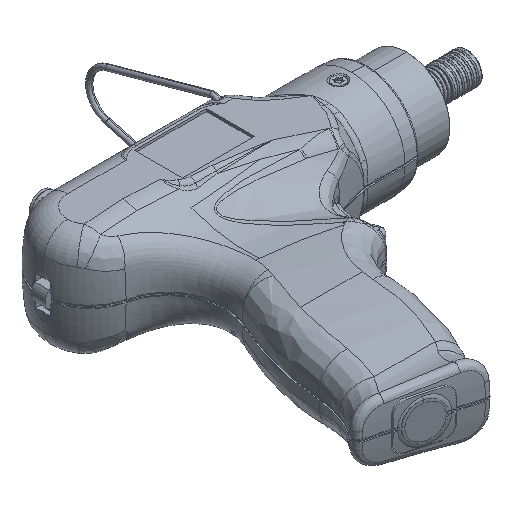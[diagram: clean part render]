
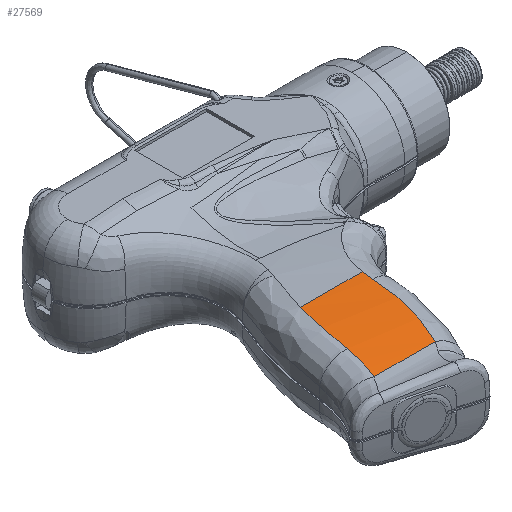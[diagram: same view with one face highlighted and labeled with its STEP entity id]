
A CAD part, isometric view. The second image highlights one B-rep face of the part: STEP entity #27569.
In plain terms, the highlighted cylindrical face has radius 275.277 mm (diameter 550.554 mm), a partial arc.
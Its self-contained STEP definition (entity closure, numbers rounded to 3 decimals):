
#1905 = CARTESIAN_POINT ( 'NONE',  ( -37.594, -58.795, 24.553 ) ) ;
#2505 = B_SPLINE_CURVE_WITH_KNOTS ( 'NONE', 3,
 ( #5017, #180126, #160142, #140186 ),
 .UNSPECIFIED., .F., .F.,
 ( 4, 4 ),
 ( 0., 0.152 ),
 .UNSPECIFIED. ) ;
#4031 = CARTESIAN_POINT ( 'NONE',  ( -7.306, -41.382, 26.105 ) ) ;
#5017 = CARTESIAN_POINT ( 'NONE',  ( -6.525, -30.34, 26.518 ) ) ;
#5624 = CARTESIAN_POINT ( 'NONE',  ( -33.478, -32.349, 26.478 ) ) ;
#8753 = CARTESIAN_POINT ( 'NONE',  ( -10.691, -56.138, 24.854 ) ) ;
#14770 = DIRECTION ( 'NONE',  ( -1., 0., 0. ) ) ;
#19316 = CARTESIAN_POINT ( 'NONE',  ( -6.681, -34.992, 26.398 ) ) ;
#20913 = CARTESIAN_POINT ( 'NONE',  ( -35.995, -49.289, 25.533 ) ) ;
#21389 = EDGE_CURVE ( 'NONE', #35090, #77837, #164801, .T. ) ;
#21938 = CARTESIAN_POINT ( 'NONE',  ( -37.044, -56.307, 24.835 ) ) ;
#24007 = CARTESIAN_POINT ( 'NONE',  ( -7.662, -43.837, 25.957 ) ) ;
#25565 = CARTESIAN_POINT ( 'NONE',  ( -32.821, -29.415, 26.54 ) ) ;
#27569 = ADVANCED_FACE ( 'NONE', ( #40245 ), #45253, .T. ) ;
#28671 = CARTESIAN_POINT ( 'NONE',  ( -10.912, -56.808, 24.778 ) ) ;
#31950 = LINE ( 'NONE', #187231, #155514 ) ;
#34759 = CARTESIAN_POINT ( 'NONE',  ( -5.935, -25.531, 26.56 ) ) ;
#35090 = VERTEX_POINT ( 'NONE', #122887 ) ;
#36643 = EDGE_CURVE ( 'NONE', #77837, #173063, #2505, .T. ) ;
#38731 = VERTEX_POINT ( 'NONE', #111104 ) ;
#39291 = CARTESIAN_POINT ( 'NONE',  ( -6.704, -35.349, 26.385 ) ) ;
#40245 = FACE_OUTER_BOUND ( 'NONE', #122597, .T. ) ;
#40851 = CARTESIAN_POINT ( 'NONE',  ( -35.663, -45.266, 25.882 ) ) ;
#41847 = CARTESIAN_POINT ( 'NONE',  ( -37.012, -56.158, 24.851 ) ) ;
#43955 = CARTESIAN_POINT ( 'NONE',  ( -8.046, -45.926, 25.807 ) ) ;
#45026 = CARTESIAN_POINT ( 'NONE',  ( -39.103, -63.376, 23.946 ) ) ;
#45253 = CYLINDRICAL_SURFACE ( 'NONE', #149756, 275.277 ) ;
#45539 = CARTESIAN_POINT ( 'NONE',  ( -32.337, -27.468, 26.56 ) ) ;
#48673 = CARTESIAN_POINT ( 'NONE',  ( -11.25, -57.81, 24.663 ) ) ;
#54759 = LINE ( 'NONE', #34759, #135494 ) ;
#56104 = VERTEX_POINT ( 'NONE', #45026 ) ;
#58230 = ORIENTED_EDGE ( 'NONE', *, *, #153483, .T. ) ;
#59233 = CARTESIAN_POINT ( 'NONE',  ( -6.739, -35.883, 26.366 ) ) ;
#60814 = CARTESIAN_POINT ( 'NONE',  ( -35.145, -41.257, 26.14 ) ) ;
#61845 = CARTESIAN_POINT ( 'NONE',  ( -36.949, -55.862, 24.884 ) ) ;
#62802 = ORIENTED_EDGE ( 'NONE', *, *, #36643, .T. ) ;
#63951 = CARTESIAN_POINT ( 'NONE',  ( -8.409, -47.659, 25.67 ) ) ;
#66477 = DIRECTION ( 'NONE',  ( 0., 0., 1. ) ) ;
#68687 = CARTESIAN_POINT ( 'NONE',  ( -11.607, -58.804, 24.543 ) ) ;
#77837 = VERTEX_POINT ( 'NONE', #180822 ) ;
#79167 = CARTESIAN_POINT ( 'NONE',  ( -6.833, -37.132, 26.317 ) ) ;
#80034 = ORIENTED_EDGE ( 'NONE', *, *, #102518, .T. ) ;
#80778 = CARTESIAN_POINT ( 'NONE',  ( -34.418, -37.143, 26.315 ) ) ;
#81787 = CARTESIAN_POINT ( 'NONE',  ( -36.857, -55.418, 24.933 ) ) ;
#83317 = ORIENTED_EDGE ( 'NONE', *, *, #129265, .T. ) ;
#83884 = CARTESIAN_POINT ( 'NONE',  ( -8.483, -48.001, 25.642 ) ) ;
#86373 = DIRECTION ( 'NONE',  ( -1., 0., 0. ) ) ;
#88567 = CARTESIAN_POINT ( 'NONE',  ( -12.346, -60.781, 24.297 ) ) ;
#88692 = CARTESIAN_POINT ( 'NONE',  ( -6.133, -25.531, 26.56 ) ) ;
#89919 = VERTEX_POINT ( 'NONE', #105324 ) ;
#92483 = EDGE_CURVE ( 'NONE', #173063, #38731, #54759, .T. ) ;
#99151 = CARTESIAN_POINT ( 'NONE',  ( -6.934, -38.202, 26.269 ) ) ;
#100696 = CARTESIAN_POINT ( 'NONE',  ( -34.396, -37.02, 26.32 ) ) ;
#101689 = CARTESIAN_POINT ( 'NONE',  ( -36.655, -54.379, 25.046 ) ) ;
#102518 = EDGE_CURVE ( 'NONE', #56104, #35090, #31950, .T. ) ;
#103802 = CARTESIAN_POINT ( 'NONE',  ( -8.636, -48.689, 25.585 ) ) ;
#105324 = CARTESIAN_POINT ( 'NONE',  ( -35.995, -49.289, 25.533 ) ) ;
#106302 = CARTESIAN_POINT ( 'NONE',  ( -5.935, -25.531, -248.717 ) ) ;
#108550 = CARTESIAN_POINT ( 'NONE',  ( -12.871, -62.086, 24.125 ) ) ;
#111104 = CARTESIAN_POINT ( 'NONE',  ( -31.808, -25.531, 26.56 ) ) ;
#113284 = CARTESIAN_POINT ( 'NONE',  ( -13.43, -63.376, 23.946 ) ) ;
#117557 = B_SPLINE_CURVE_WITH_KNOTS ( 'NONE', 3,
 ( #145529, #45539, #25565, #5624, #180745, #160771, #140793, #120738, #100696, #80778, #60814, #40851, #20913 ),
 .UNSPECIFIED., .F., .F.,
 ( 4, 2, 1, 1, 1, 2, 2, 4 ),
 ( 0.437, 0.578, 0.648, 0.684, 0.701, 0.71, 0.719, 1. ),
 .UNSPECIFIED. ) ;
#119119 = CARTESIAN_POINT ( 'NONE',  ( -7.03, -39.095, 26.226 ) ) ;
#120738 = CARTESIAN_POINT ( 'NONE',  ( -34.352, -36.774, 26.331 ) ) ;
#121781 = CARTESIAN_POINT ( 'NONE',  ( -36.304, -52.295, 25.261 ) ) ;
#122597 = EDGE_LOOP ( 'NONE', ( #62802, #139645, #83317, #58230, #80034, #165686 ) ) ;
#122887 = CARTESIAN_POINT ( 'NONE',  ( -13.43, -63.376, 23.946 ) ) ;
#123917 = CARTESIAN_POINT ( 'NONE',  ( -8.872, -49.717, 25.497 ) ) ;
#129265 = EDGE_CURVE ( 'NONE', #38731, #89919, #117557, .T. ) ;
#134406 = CARTESIAN_POINT ( 'NONE',  ( -6.525, -30.34, 26.518 ) ) ;
#135494 = VECTOR ( 'NONE', #14770, 1000. ) ;
#139174 = CARTESIAN_POINT ( 'NONE',  ( -7.049, -39.269, 26.217 ) ) ;
#139645 = ORIENTED_EDGE ( 'NONE', *, *, #92483, .T. ) ;
#140186 = CARTESIAN_POINT ( 'NONE',  ( -6.133, -25.531, 26.56 ) ) ;
#140793 = CARTESIAN_POINT ( 'NONE',  ( -34.285, -36.404, 26.346 ) ) ;
#141810 = CARTESIAN_POINT ( 'NONE',  ( -36.094, -50.494, 25.429 ) ) ;
#143129 = B_SPLINE_CURVE_WITH_KNOTS ( 'NONE', 3,
 ( #161752, #141810, #121781, #101689, #81787, #61845, #41847, #21938, #1905, #177019, #157072 ),
 .UNSPECIFIED., .F., .F.,
 ( 4, 1, 1, 1, 2, 2, 4 ),
 ( 0., 0.25, 0.375, 0.437, 0.469, 0.5, 1. ),
 .UNSPECIFIED. ) ;
#143938 = CARTESIAN_POINT ( 'NONE',  ( -9.466, -52.104, 25.281 ) ) ;
#145529 = CARTESIAN_POINT ( 'NONE',  ( -31.808, -25.531, 26.56 ) ) ;
#149756 = AXIS2_PLACEMENT_3D ( 'NONE', #106302, #86373, #66477 ) ;
#153483 = EDGE_CURVE ( 'NONE', #89919, #56104, #143129, .T. ) ;
#154452 = CARTESIAN_POINT ( 'NONE',  ( -6.536, -31.796, 26.493 ) ) ;
#155514 = VECTOR ( 'NONE', #167124, 1000. ) ;
#157072 = CARTESIAN_POINT ( 'NONE',  ( -39.103, -63.376, 23.946 ) ) ;
#159177 = CARTESIAN_POINT ( 'NONE',  ( -7.089, -39.622, 26.199 ) ) ;
#160142 = CARTESIAN_POINT ( 'NONE',  ( -6.384, -27.123, 26.56 ) ) ;
#160771 = CARTESIAN_POINT ( 'NONE',  ( -34.125, -35.542, 26.379 ) ) ;
#161752 = CARTESIAN_POINT ( 'NONE',  ( -35.995, -49.289, 25.533 ) ) ;
#163849 = CARTESIAN_POINT ( 'NONE',  ( -10.051, -54.127, 25.074 ) ) ;
#164801 = B_SPLINE_CURVE_WITH_KNOTS ( 'NONE', 3,
 ( #113284, #108550, #88567, #68687, #48673, #28671, #8753, #183921, #163849, #143938, #123917, #103802, #83884, #63951, #43955, #24007, #4031, #179136, #159177, #139174, #119119, #99151, #79167, #59233, #39291, #19316, #194425, #174424, #154452, #134406 ),
 .UNSPECIFIED., .F., .F.,
 ( 4, 2, 1, 2, 2, 1, 1, 2, 2, 1, 1, 1, 2, 2, 1, 1, 2, 2, 4 ),
 ( 0., 0.125, 0.188, 0.219, 0.25, 0.375, 0.438, 0.469, 0.5, 0.625, 0.688, 0.719, 0.734, 0.75, 0.813, 0.844, 0.859, 0.875, 1. ),
 .UNSPECIFIED. ) ;
#165686 = ORIENTED_EDGE ( 'NONE', *, *, #21389, .T. ) ;
#167124 = DIRECTION ( 'NONE',  ( 1., 0., 0. ) ) ;
#173063 = VERTEX_POINT ( 'NONE', #88692 ) ;
#174424 = CARTESIAN_POINT ( 'NONE',  ( -6.581, -33.228, 26.456 ) ) ;
#177019 = CARTESIAN_POINT ( 'NONE',  ( -38.269, -61.103, 24.262 ) ) ;
#179136 = CARTESIAN_POINT ( 'NONE',  ( -7.151, -40.15, 26.172 ) ) ;
#180126 = CARTESIAN_POINT ( 'NONE',  ( -6.514, -28.726, 26.546 ) ) ;
#180745 = CARTESIAN_POINT ( 'NONE',  ( -33.79, -33.82, 26.439 ) ) ;
#180822 = CARTESIAN_POINT ( 'NONE',  ( -6.525, -30.34, 26.518 ) ) ;
#183921 = CARTESIAN_POINT ( 'NONE',  ( -10.581, -55.8, 24.891 ) ) ;
#187231 = CARTESIAN_POINT ( 'NONE',  ( -5.935, -63.376, 23.946 ) ) ;
#194425 = CARTESIAN_POINT ( 'NONE',  ( -6.67, -34.812, 26.404 ) ) ;
